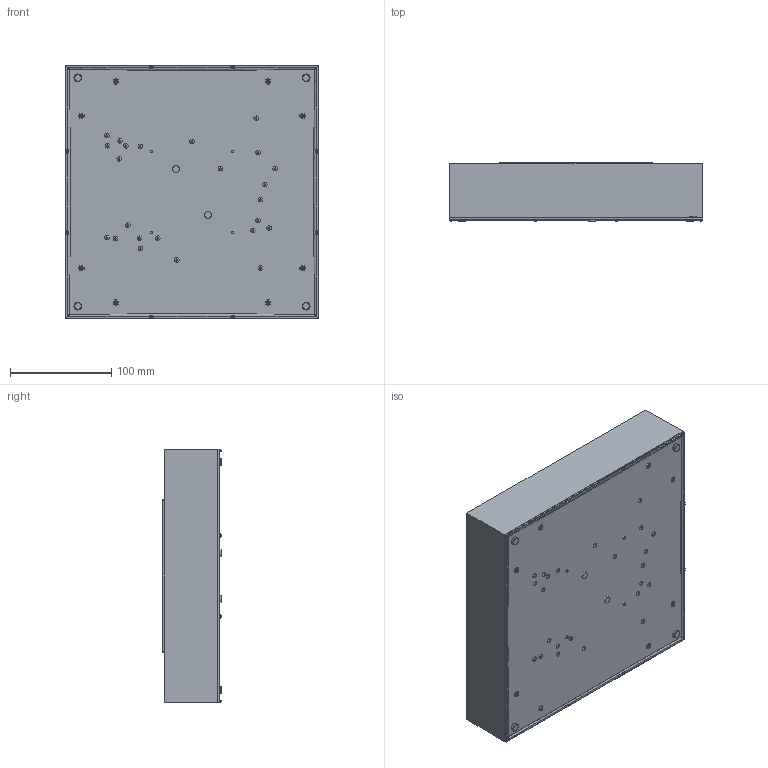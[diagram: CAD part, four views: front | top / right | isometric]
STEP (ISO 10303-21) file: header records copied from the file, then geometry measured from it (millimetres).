
FILE_DESCRIPTION((''),'2;1');
FILE_NAME('STICK-12LED-ANGOLI-CO_SW0001','2025-06-26T08:35:50',('Piccioli'),(''),'CREO PARAMETRIC BY PTC INC, 2025010','CREO PARAMETRIC BY PTC INC, 2025010','');
FILE_SCHEMA(('CONFIG_CONTROL_DESIGN'));
Length unit declared in the file: millimetre
Products named in the file (1): STICK-12LED-ANGOLI-CO_SW0001
Bounding box: 250 x 58 x 250 mm (x, y, z)
Surface area: 205299.6 mm2 (no closed solid volume)
Topology: 0 solids, 45 shells, 369 faces, 1012 edges, 676 vertices
Faces by surface type: bspline 104, plane 81, cylinder 76, sphere 64, cone 24, torus 20
Entity records: 17323 total; most frequent: CARTESIAN_POINT 8712, DIRECTION 1886, ORIENTED_EDGE 1528, EDGE_CURVE 1012, AXIS2_PLACEMENT_3D 809, VERTEX_POINT 676, CIRCLE 544, EDGE_LOOP 369
